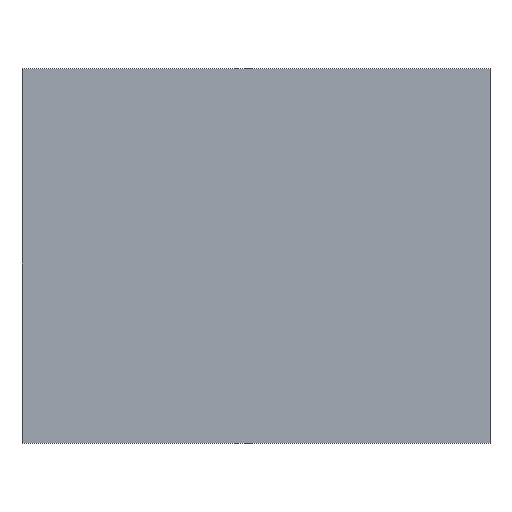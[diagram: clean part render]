
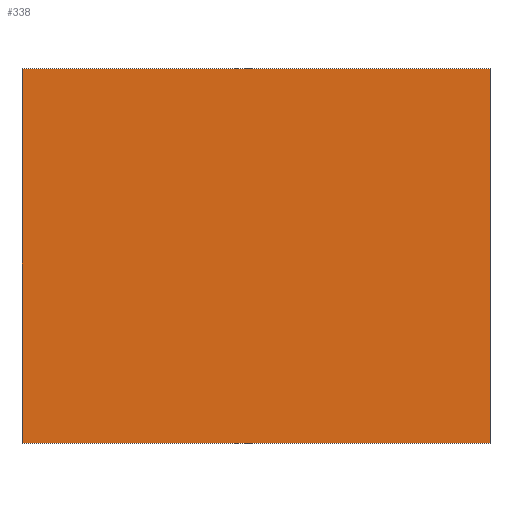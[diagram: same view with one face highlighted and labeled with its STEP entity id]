
A CAD part, top view. The second image highlights one B-rep face of the part: STEP entity #338.
In plain terms, the highlighted planar face has unit normal (0, 0, 1).
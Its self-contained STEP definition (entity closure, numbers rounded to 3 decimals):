
#24 = VERTEX_POINT('',#25);
#25 = CARTESIAN_POINT('',(-105.,-84.,2.));
#32 = PLANE('',#33);
#33 = AXIS2_PLACEMENT_3D('',#34,#35,#36);
#34 = CARTESIAN_POINT('',(-105.,-84.,-2.));
#35 = DIRECTION('',(1.,0.,-0.));
#36 = DIRECTION('',(0.,0.,1.));
#44 = PLANE('',#45);
#45 = AXIS2_PLACEMENT_3D('',#46,#47,#48);
#46 = CARTESIAN_POINT('',(-105.,-84.,-2.));
#47 = DIRECTION('',(-0.,1.,0.));
#48 = DIRECTION('',(0.,0.,1.));
#85 = VERTEX_POINT('',#86);
#86 = CARTESIAN_POINT('',(-105.,84.,2.));
#100 = PLANE('',#101);
#101 = AXIS2_PLACEMENT_3D('',#102,#103,#104);
#102 = CARTESIAN_POINT('',(-105.,84.,-2.));
#103 = DIRECTION('',(-0.,1.,0.));
#104 = DIRECTION('',(0.,0.,1.));
#112 = EDGE_CURVE('',#24,#85,#113,.T.);
#113 = SURFACE_CURVE('',#114,(#118,#125),.PCURVE_S1.);
#114 = LINE('',#115,#116);
#115 = CARTESIAN_POINT('',(-105.,-84.,2.));
#116 = VECTOR('',#117,1.);
#117 = DIRECTION('',(-0.,1.,0.));
#118 = PCURVE('',#32,#119);
#119 = DEFINITIONAL_REPRESENTATION('',(#120),#124);
#120 = LINE('',#121,#122);
#121 = CARTESIAN_POINT('',(4.,0.));
#122 = VECTOR('',#123,1.);
#123 = DIRECTION('',(0.,-1.));
#124 = ( GEOMETRIC_REPRESENTATION_CONTEXT(2) 
PARAMETRIC_REPRESENTATION_CONTEXT() REPRESENTATION_CONTEXT('2D SPACE',''
  ) );
#125 = PCURVE('',#126,#131);
#126 = PLANE('',#127);
#127 = AXIS2_PLACEMENT_3D('',#128,#129,#130);
#128 = CARTESIAN_POINT('',(-105.,-84.,2.));
#129 = DIRECTION('',(0.,0.,1.));
#130 = DIRECTION('',(1.,0.,-0.));
#131 = DEFINITIONAL_REPRESENTATION('',(#132),#136);
#132 = LINE('',#133,#134);
#133 = CARTESIAN_POINT('',(0.,0.));
#134 = VECTOR('',#135,1.);
#135 = DIRECTION('',(0.,1.));
#136 = ( GEOMETRIC_REPRESENTATION_CONTEXT(2) 
PARAMETRIC_REPRESENTATION_CONTEXT() REPRESENTATION_CONTEXT('2D SPACE',''
  ) );
#144 = VERTEX_POINT('',#145);
#145 = CARTESIAN_POINT('',(105.,-84.,2.));
#152 = PLANE('',#153);
#153 = AXIS2_PLACEMENT_3D('',#154,#155,#156);
#154 = CARTESIAN_POINT('',(105.,-84.,-2.));
#155 = DIRECTION('',(1.,0.,-0.));
#156 = DIRECTION('',(0.,0.,1.));
#195 = VERTEX_POINT('',#196);
#196 = CARTESIAN_POINT('',(105.,84.,2.));
#217 = EDGE_CURVE('',#144,#195,#218,.T.);
#218 = SURFACE_CURVE('',#219,(#223,#230),.PCURVE_S1.);
#219 = LINE('',#220,#221);
#220 = CARTESIAN_POINT('',(105.,-84.,2.));
#221 = VECTOR('',#222,1.);
#222 = DIRECTION('',(-0.,1.,0.));
#223 = PCURVE('',#152,#224);
#224 = DEFINITIONAL_REPRESENTATION('',(#225),#229);
#225 = LINE('',#226,#227);
#226 = CARTESIAN_POINT('',(4.,0.));
#227 = VECTOR('',#228,1.);
#228 = DIRECTION('',(0.,-1.));
#229 = ( GEOMETRIC_REPRESENTATION_CONTEXT(2) 
PARAMETRIC_REPRESENTATION_CONTEXT() REPRESENTATION_CONTEXT('2D SPACE',''
  ) );
#230 = PCURVE('',#126,#231);
#231 = DEFINITIONAL_REPRESENTATION('',(#232),#236);
#232 = LINE('',#233,#234);
#233 = CARTESIAN_POINT('',(210.,0.));
#234 = VECTOR('',#235,1.);
#235 = DIRECTION('',(0.,1.));
#236 = ( GEOMETRIC_REPRESENTATION_CONTEXT(2) 
PARAMETRIC_REPRESENTATION_CONTEXT() REPRESENTATION_CONTEXT('2D SPACE',''
  ) );
#263 = EDGE_CURVE('',#24,#144,#264,.T.);
#264 = SURFACE_CURVE('',#265,(#269,#276),.PCURVE_S1.);
#265 = LINE('',#266,#267);
#266 = CARTESIAN_POINT('',(-105.,-84.,2.));
#267 = VECTOR('',#268,1.);
#268 = DIRECTION('',(1.,0.,-0.));
#269 = PCURVE('',#44,#270);
#270 = DEFINITIONAL_REPRESENTATION('',(#271),#275);
#271 = LINE('',#272,#273);
#272 = CARTESIAN_POINT('',(4.,0.));
#273 = VECTOR('',#274,1.);
#274 = DIRECTION('',(0.,1.));
#275 = ( GEOMETRIC_REPRESENTATION_CONTEXT(2) 
PARAMETRIC_REPRESENTATION_CONTEXT() REPRESENTATION_CONTEXT('2D SPACE',''
  ) );
#276 = PCURVE('',#126,#277);
#277 = DEFINITIONAL_REPRESENTATION('',(#278),#282);
#278 = LINE('',#279,#280);
#279 = CARTESIAN_POINT('',(0.,0.));
#280 = VECTOR('',#281,1.);
#281 = DIRECTION('',(1.,0.));
#282 = ( GEOMETRIC_REPRESENTATION_CONTEXT(2) 
PARAMETRIC_REPRESENTATION_CONTEXT() REPRESENTATION_CONTEXT('2D SPACE',''
  ) );
#310 = EDGE_CURVE('',#85,#195,#311,.T.);
#311 = SURFACE_CURVE('',#312,(#316,#323),.PCURVE_S1.);
#312 = LINE('',#313,#314);
#313 = CARTESIAN_POINT('',(-105.,84.,2.));
#314 = VECTOR('',#315,1.);
#315 = DIRECTION('',(1.,0.,-0.));
#316 = PCURVE('',#100,#317);
#317 = DEFINITIONAL_REPRESENTATION('',(#318),#322);
#318 = LINE('',#319,#320);
#319 = CARTESIAN_POINT('',(4.,0.));
#320 = VECTOR('',#321,1.);
#321 = DIRECTION('',(0.,1.));
#322 = ( GEOMETRIC_REPRESENTATION_CONTEXT(2) 
PARAMETRIC_REPRESENTATION_CONTEXT() REPRESENTATION_CONTEXT('2D SPACE',''
  ) );
#323 = PCURVE('',#126,#324);
#324 = DEFINITIONAL_REPRESENTATION('',(#325),#329);
#325 = LINE('',#326,#327);
#326 = CARTESIAN_POINT('',(0.,168.));
#327 = VECTOR('',#328,1.);
#328 = DIRECTION('',(1.,0.));
#329 = ( GEOMETRIC_REPRESENTATION_CONTEXT(2) 
PARAMETRIC_REPRESENTATION_CONTEXT() REPRESENTATION_CONTEXT('2D SPACE',''
  ) );
#338 = ADVANCED_FACE('',(#339),#126,.T.);
#339 = FACE_BOUND('',#340,.T.);
#340 = EDGE_LOOP('',(#341,#342,#343,#344));
#341 = ORIENTED_EDGE('',*,*,#112,.F.);
#342 = ORIENTED_EDGE('',*,*,#263,.T.);
#343 = ORIENTED_EDGE('',*,*,#217,.T.);
#344 = ORIENTED_EDGE('',*,*,#310,.F.);
